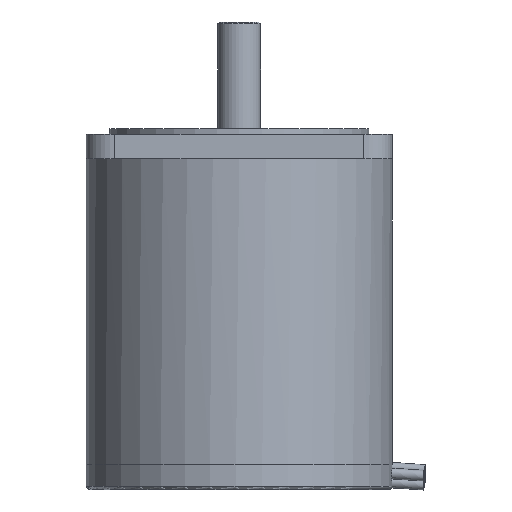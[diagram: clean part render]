
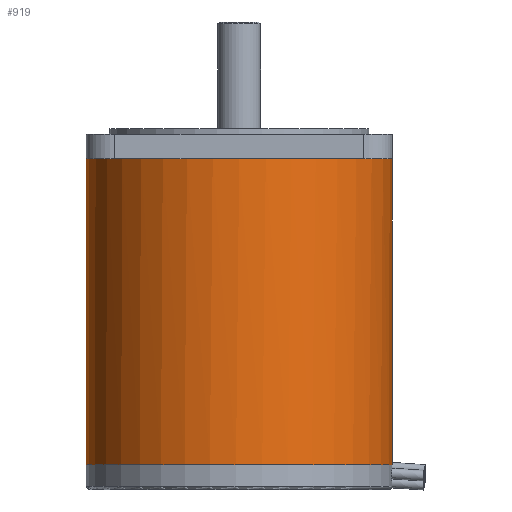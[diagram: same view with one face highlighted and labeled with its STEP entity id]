
A CAD part, front view. The second image highlights one B-rep face of the part: STEP entity #919.
In plain terms, the highlighted cylindrical face has radius 43 mm (diameter 86 mm), a full revolution.
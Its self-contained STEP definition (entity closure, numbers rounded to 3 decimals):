
#187=CARTESIAN_POINT('',(-69.773,-46.811,77.005));
#188=VERTEX_POINT('',#187);
#189=CARTESIAN_POINT('',(-26.773,-89.811,77.005));
#190=VERTEX_POINT('',#189);
#191=CARTESIAN_POINT('',(-69.773,-89.811,77.005));
#192=DIRECTION('',(0.0,0.0,-1.0));
#193=DIRECTION('',(-1.0,0.0,0.0));
#194=AXIS2_PLACEMENT_3D('',#191,#192,#193);
#195=CIRCLE('',#194,43.0);
#196=EDGE_CURVE('',#188,#190,#195,.T.);
#240=CARTESIAN_POINT('',(-112.773,-89.811,77.005));
#241=VERTEX_POINT('',#240);
#242=CARTESIAN_POINT('',(-69.773,-89.811,77.005));
#243=DIRECTION('',(0.0,0.0,-1.0));
#244=DIRECTION('',(-1.0,0.0,0.0));
#245=AXIS2_PLACEMENT_3D('',#242,#243,#244);
#246=CIRCLE('',#245,43.0);
#247=EDGE_CURVE('',#241,#188,#246,.T.);
#291=CARTESIAN_POINT('',(-69.773,-132.811,77.005));
#292=VERTEX_POINT('',#291);
#293=CARTESIAN_POINT('',(-69.773,-89.811,77.005));
#294=DIRECTION('',(0.0,0.0,-1.0));
#295=DIRECTION('',(-1.0,0.0,0.0));
#296=AXIS2_PLACEMENT_3D('',#293,#294,#295);
#297=CIRCLE('',#296,43.0);
#298=EDGE_CURVE('',#292,#241,#297,.T.);
#342=CARTESIAN_POINT('',(-69.773,-89.811,77.005));
#343=DIRECTION('',(0.0,0.0,-1.0));
#344=DIRECTION('',(-1.0,0.0,0.0));
#345=AXIS2_PLACEMENT_3D('',#342,#343,#344);
#346=CIRCLE('',#345,43.0);
#347=EDGE_CURVE('',#190,#292,#346,.T.);
#869=CARTESIAN_POINT('',(-69.773,-89.811,-8.995));
#870=DIRECTION('',(0.0,0.0,1.0));
#871=DIRECTION('',(-1.0,0.0,0.0));
#872=AXIS2_PLACEMENT_3D('',#869,#870,#871);
#873=CYLINDRICAL_SURFACE('',#872,43.0);
#874=CARTESIAN_POINT('',(-26.825,-87.704,-8.995));
#875=VERTEX_POINT('',#874);
#876=CARTESIAN_POINT('',(-26.775,-90.155,-8.995));
#877=VERTEX_POINT('',#876);
#878=CARTESIAN_POINT('',(-26.825,-87.704,-8.995));
#879=CARTESIAN_POINT('',(-26.822,-87.754,-8.925));
#880=CARTESIAN_POINT('',(-26.82,-87.81,-8.86));
#881=CARTESIAN_POINT('',(-26.811,-88.003,-8.669));
#882=CARTESIAN_POINT('',(-26.804,-88.173,-8.555));
#883=CARTESIAN_POINT('',(-26.791,-88.546,-8.404));
#884=CARTESIAN_POINT('',(-26.786,-88.748,-8.368));
#885=CARTESIAN_POINT('',(-26.778,-89.127,-8.37));
#886=CARTESIAN_POINT('',(-26.776,-89.329,-8.41));
#887=CARTESIAN_POINT('',(-26.773,-89.7,-8.565));
#888=CARTESIAN_POINT('',(-26.773,-89.87,-8.682));
#889=CARTESIAN_POINT('',(-26.774,-90.057,-8.871));
#890=CARTESIAN_POINT('',(-26.774,-90.108,-8.931));
#891=CARTESIAN_POINT('',(-26.775,-90.155,-8.995));
#892=B_SPLINE_CURVE_WITH_KNOTS('',3,(#878,#879,#880,#881,#882,#883,#884,#885,#886,#887,#888,#889,#890,#891),.UNSPECIFIED.,.F.,.U.,(4,2,2,2,2,2,4),(0.542,0.567,0.624,0.681,0.737,0.794,0.817),.UNSPECIFIED.);
#893=EDGE_CURVE('',#875,#877,#892,.T.);
#894=ORIENTED_EDGE('',*,*,#893,.F.);
#895=CARTESIAN_POINT('',(-26.811,-91.614,-8.995));
#896=VERTEX_POINT('',#895);
#897=CARTESIAN_POINT('',(-69.773,-89.811,-8.995));
#898=DIRECTION('',(0.0,0.0,1.0));
#899=DIRECTION('',(-1.0,0.0,0.0));
#900=AXIS2_PLACEMENT_3D('',#897,#898,#899);
#901=CIRCLE('',#900,43.0);
#902=EDGE_CURVE('',#875,#896,#901,.T.);
#903=ORIENTED_EDGE('',*,*,#902,.T.);
#904=CARTESIAN_POINT('',(-69.773,-89.811,-8.995));
#905=DIRECTION('',(0.0,0.0,-1.0));
#906=DIRECTION('',(-1.0,0.0,0.0));
#907=AXIS2_PLACEMENT_3D('',#904,#905,#906);
#908=CIRCLE('',#907,43.0);
#909=EDGE_CURVE('',#877,#896,#908,.T.);
#910=ORIENTED_EDGE('',*,*,#909,.F.);
#911=EDGE_LOOP('',(#894,#903,#910));
#912=FACE_OUTER_BOUND('',#911,.T.);
#913=ORIENTED_EDGE('',*,*,#347,.T.);
#914=ORIENTED_EDGE('',*,*,#298,.T.);
#915=ORIENTED_EDGE('',*,*,#247,.T.);
#916=ORIENTED_EDGE('',*,*,#196,.T.);
#917=EDGE_LOOP('',(#913,#914,#915,#916));
#918=FACE_BOUND('',#917,.T.);
#919=ADVANCED_FACE('',(#912,#918),#873,.T.);
